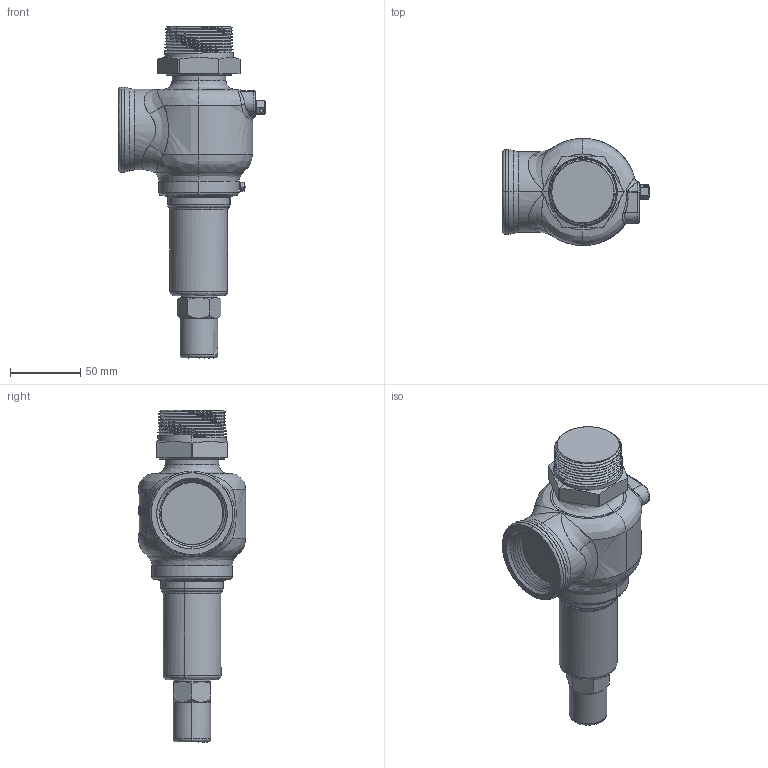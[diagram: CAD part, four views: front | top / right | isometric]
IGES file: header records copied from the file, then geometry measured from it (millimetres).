
Start section: SolidWorks IGES file using NURBS representation for surfaces
Global section: file name: C:\Design\Design\Aquatrol\Customer 3D Files\Series 740 Customer Files\F Orifice\Customer\Iges Files\Series 740 F 1500 x 1500 Closed Cap.IGS; native system: SolidWorks 2015; preprocessor: SolidWorks 2015; author: Karl; date: 150515.102329; units: inch
Bounding box: 104.45 x 76.2 x 235.95 mm (x, y, z)
Surface area: 55949.4 mm2 (no closed solid volume)
Topology: 0 solids, 0 shells, 319 faces, 5992 edges, 5990 vertices
Faces by surface type: bspline 319
